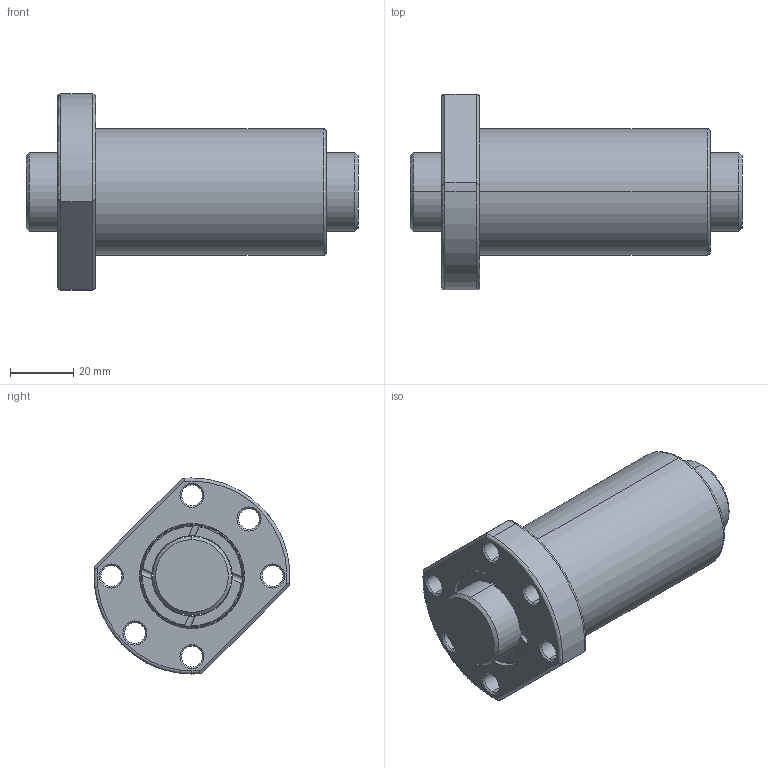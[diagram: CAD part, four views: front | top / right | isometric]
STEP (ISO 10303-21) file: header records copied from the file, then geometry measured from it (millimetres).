
FILE_DESCRIPTION (( 'STEP AP203' ), '1' );
FILE_NAME ('SFUR02510T4D-C.STEP', '2020-06-16T07:30:14', ( '' ), ( '' ), 'SwSTEP 2.0', 'SolidWorks 2013', '' );
FILE_SCHEMA (( 'CONFIG_CONTROL_DESIGN' ));
Length unit declared in the file: millimetre
Products named in the file (1): SFUR02510T4D-C
Bounding box: 105 x 61.87 x 62 mm (x, y, z)
Volume: 121814.8 mm3; surface area: 35977.3 mm2
Topology: 2 solids, 2 shells, 123 faces, 303 edges, 188 vertices
Faces by surface type: cylinder 55, plane 26, torus 18, cone 16, bspline 8
Entity records: 4889 total; most frequent: CARTESIAN_POINT 1921, DIRECTION 613, ORIENTED_EDGE 606, EDGE_CURVE 303, AXIS2_PLACEMENT_3D 264, VERTEX_POINT 188, CIRCLE 148, EDGE_LOOP 145
